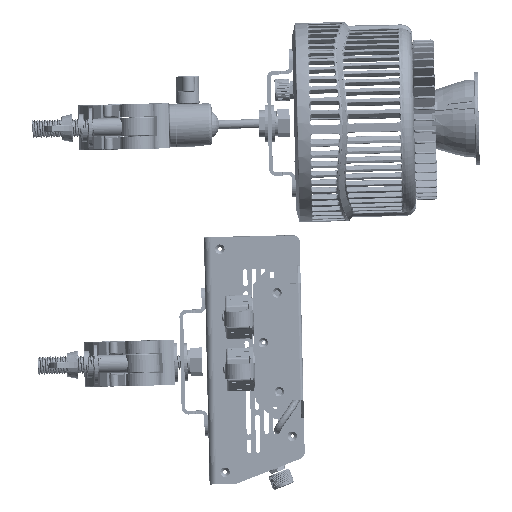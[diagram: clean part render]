
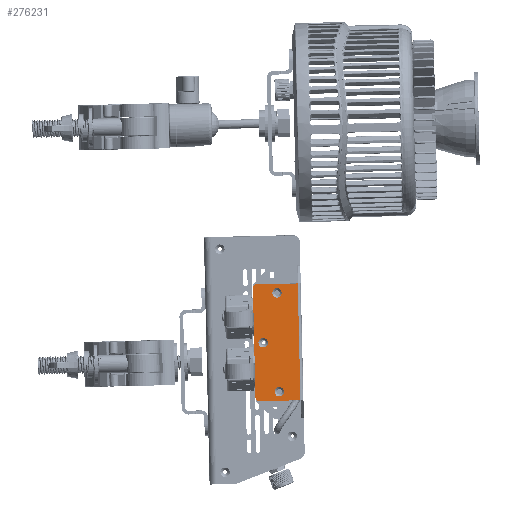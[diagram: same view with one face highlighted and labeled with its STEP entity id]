
A CAD part, left-side view. The second image highlights one B-rep face of the part: STEP entity #276231.
In plain terms, the highlighted planar face has unit normal (-1, 0, -0.003) as drawn and (1, 0, 0) by its records, which use the part's own axes.
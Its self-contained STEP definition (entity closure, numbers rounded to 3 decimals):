
#2128 = CARTESIAN_POINT ( 'NONE',  ( 19., 28.5, -37. ) ) ;
#9729 = CARTESIAN_POINT ( 'NONE',  ( 19., 14.5, 36.15 ) ) ;
#10207 = VERTEX_POINT ( 'NONE', #227552 ) ;
#10753 = ORIENTED_EDGE ( 'NONE', *, *, #183027, .F. ) ;
#12952 = CIRCLE ( 'NONE', #265274, 3.15 ) ;
#14060 = DIRECTION ( 'NONE',  ( 1., 0., 0. ) ) ;
#17226 = EDGE_CURVE ( 'NONE', #119949, #23651, #245859, .T. ) ;
#21820 = VERTEX_POINT ( 'NONE', #242790 ) ;
#23651 = VERTEX_POINT ( 'NONE', #9729 ) ;
#23948 = DIRECTION ( 'NONE',  ( 0., 0., -1. ) ) ;
#28072 = VERTEX_POINT ( 'NONE', #149148 ) ;
#28749 = DIRECTION ( 'NONE',  ( 0., 0., -1. ) ) ;
#32831 = DIRECTION ( 'NONE',  ( 0., 0., -1. ) ) ;
#33234 = EDGE_LOOP ( 'NONE', ( #298638, #272459, #10753, #55738, #103871, #107113 ) ) ;
#37690 = AXIS2_PLACEMENT_3D ( 'NONE', #106160, #180463, #28749 ) ;
#45220 = FACE_BOUND ( 'NONE', #178678, .T. ) ;
#45818 = CIRCLE ( 'NONE', #141774, 3.15 ) ;
#47546 = EDGE_CURVE ( 'NONE', #215955, #21820, #214192, .T. ) ;
#51374 = DIRECTION ( 'NONE',  ( 0., 0., -1. ) ) ;
#55738 = ORIENTED_EDGE ( 'NONE', *, *, #119489, .T. ) ;
#65951 = CIRCLE ( 'NONE', #106349, 2. ) ;
#67318 = VERTEX_POINT ( 'NONE', #167576 ) ;
#75102 = AXIS2_PLACEMENT_3D ( 'NONE', #268004, #288677, #217375 ) ;
#80248 = CARTESIAN_POINT ( 'NONE',  ( 19., 0.5, 39. ) ) ;
#83283 = CIRCLE ( 'NONE', #37690, 3.15 ) ;
#84695 = VERTEX_POINT ( 'NONE', #99338 ) ;
#89166 = AXIS2_PLACEMENT_3D ( 'NONE', #276317, #127660, #108633 ) ;
#89513 = CARTESIAN_POINT ( 'NONE',  ( 19., 14.5, 29.85 ) ) ;
#94066 = DIRECTION ( 'NONE',  ( 0., 1., 0. ) ) ;
#94248 = PLANE ( 'NONE',  #205058 ) ;
#94333 = AXIS2_PLACEMENT_3D ( 'NONE', #257518, #14060, #206910 ) ;
#99338 = CARTESIAN_POINT ( 'NONE',  ( 19., 24.5, -3.15 ) ) ;
#100459 = DIRECTION ( 'NONE',  ( 0., 1., 0. ) ) ;
#102473 = VERTEX_POINT ( 'NONE', #140189 ) ;
#103871 = ORIENTED_EDGE ( 'NONE', *, *, #47546, .F. ) ;
#104160 = CARTESIAN_POINT ( 'NONE',  ( 19., 28.5, -39. ) ) ;
#105094 = VECTOR ( 'NONE', #32831, 1000. ) ;
#106160 = CARTESIAN_POINT ( 'NONE',  ( 19., 14.5, -33. ) ) ;
#106349 = AXIS2_PLACEMENT_3D ( 'NONE', #2128, #290011, #244045 ) ;
#107113 = ORIENTED_EDGE ( 'NONE', *, *, #143960, .T. ) ;
#107488 = ORIENTED_EDGE ( 'NONE', *, *, #113171, .F. ) ;
#108633 = DIRECTION ( 'NONE',  ( 0., 0., -1. ) ) ;
#108652 = ORIENTED_EDGE ( 'NONE', *, *, #205664, .F. ) ;
#109516 = AXIS2_PLACEMENT_3D ( 'NONE', #268082, #245866, #51374 ) ;
#113171 = EDGE_CURVE ( 'NONE', #84695, #10207, #12952, .T. ) ;
#113727 = CARTESIAN_POINT ( 'NONE',  ( 19., 30.5, -37. ) ) ;
#114404 = CIRCLE ( 'NONE', #89166, 3.15 ) ;
#119489 = EDGE_CURVE ( 'NONE', #67318, #21820, #216396, .T. ) ;
#119949 = VERTEX_POINT ( 'NONE', #89513 ) ;
#120802 = VERTEX_POINT ( 'NONE', #104160 ) ;
#125027 = CARTESIAN_POINT ( 'NONE',  ( 19., 30.5, 39. ) ) ;
#127660 = DIRECTION ( 'NONE',  ( 1., 0., 0. ) ) ;
#138988 = DIRECTION ( 'NONE',  ( 1., 0., 0. ) ) ;
#140189 = CARTESIAN_POINT ( 'NONE',  ( 19., 14.5, -36.15 ) ) ;
#141710 = FACE_OUTER_BOUND ( 'NONE', #33234, .T. ) ;
#141774 = AXIS2_PLACEMENT_3D ( 'NONE', #213231, #138988, #207014 ) ;
#143960 = EDGE_CURVE ( 'NONE', #215955, #245178, #201973, .T. ) ;
#149148 = CARTESIAN_POINT ( 'NONE',  ( 19., 14.5, -29.85 ) ) ;
#154850 = CIRCLE ( 'NONE', #94333, 3.15 ) ;
#158188 = EDGE_CURVE ( 'NONE', #28072, #102473, #154850, .T. ) ;
#165396 = FACE_BOUND ( 'NONE', #250887, .T. ) ;
#167576 = CARTESIAN_POINT ( 'NONE',  ( 19., 30.5, 37. ) ) ;
#169626 = DIRECTION ( 'NONE',  ( 1., 0., 0. ) ) ;
#169741 = VERTEX_POINT ( 'NONE', #113727 ) ;
#178678 = EDGE_LOOP ( 'NONE', ( #189623, #211778 ) ) ;
#180463 = DIRECTION ( 'NONE',  ( 1., 0., 0. ) ) ;
#183027 = EDGE_CURVE ( 'NONE', #67318, #169741, #223045, .T. ) ;
#183092 = VECTOR ( 'NONE', #23948, 1000. ) ;
#184470 = CARTESIAN_POINT ( 'NONE',  ( 19., 30.5, -39. ) ) ;
#189623 = ORIENTED_EDGE ( 'NONE', *, *, #265797, .F. ) ;
#190681 = CARTESIAN_POINT ( 'NONE',  ( 19., 30.5, 39. ) ) ;
#196890 = DIRECTION ( 'NONE',  ( 0., -1., 0. ) ) ;
#201973 = LINE ( 'NONE', #80248, #105094 ) ;
#203272 = ORIENTED_EDGE ( 'NONE', *, *, #17226, .F. ) ;
#205058 = AXIS2_PLACEMENT_3D ( 'NONE', #190681, #290371, #196890 ) ;
#205664 = EDGE_CURVE ( 'NONE', #10207, #84695, #45818, .T. ) ;
#206910 = DIRECTION ( 'NONE',  ( 0., 0., -1. ) ) ;
#207014 = DIRECTION ( 'NONE',  ( 0., 0., -1. ) ) ;
#211778 = ORIENTED_EDGE ( 'NONE', *, *, #158188, .F. ) ;
#213231 = CARTESIAN_POINT ( 'NONE',  ( 19., 24.5, 0. ) ) ;
#214192 = LINE ( 'NONE', #310803, #283034 ) ;
#215716 = EDGE_CURVE ( 'NONE', #120802, #169741, #65951, .T. ) ;
#215955 = VERTEX_POINT ( 'NONE', #280254 ) ;
#216396 = CIRCLE ( 'NONE', #75102, 2. ) ;
#217054 = CARTESIAN_POINT ( 'NONE',  ( 19., 24.5, 0. ) ) ;
#217375 = DIRECTION ( 'NONE',  ( 0., -1., 0. ) ) ;
#223045 = LINE ( 'NONE', #125027, #183092 ) ;
#227552 = CARTESIAN_POINT ( 'NONE',  ( 19., 24.5, 3.15 ) ) ;
#233107 = VECTOR ( 'NONE', #100459, 1000. ) ;
#239715 = LINE ( 'NONE', #184470, #233107 ) ;
#242790 = CARTESIAN_POINT ( 'NONE',  ( 19., 28.5, 39. ) ) ;
#244045 = DIRECTION ( 'NONE',  ( 0., -1., 0. ) ) ;
#245178 = VERTEX_POINT ( 'NONE', #305677 ) ;
#245859 = CIRCLE ( 'NONE', #109516, 3.15 ) ;
#245866 = DIRECTION ( 'NONE',  ( 1., 0., 0. ) ) ;
#250887 = EDGE_LOOP ( 'NONE', ( #203272, #296955 ) ) ;
#257518 = CARTESIAN_POINT ( 'NONE',  ( 19., 14.5, -33. ) ) ;
#261873 = FACE_BOUND ( 'NONE', #285565, .T. ) ;
#265274 = AXIS2_PLACEMENT_3D ( 'NONE', #217054, #169626, #312083 ) ;
#265797 = EDGE_CURVE ( 'NONE', #102473, #28072, #83283, .T. ) ;
#267703 = EDGE_CURVE ( 'NONE', #23651, #119949, #114404, .T. ) ;
#268004 = CARTESIAN_POINT ( 'NONE',  ( 19., 28.5, 37. ) ) ;
#268082 = CARTESIAN_POINT ( 'NONE',  ( 19., 14.5, 33. ) ) ;
#272459 = ORIENTED_EDGE ( 'NONE', *, *, #215716, .T. ) ;
#276231 = ADVANCED_FACE ( 'NONE', ( #165396, #261873, #45220, #141710 ), #94248, .F. ) ;
#276317 = CARTESIAN_POINT ( 'NONE',  ( 19., 14.5, 33. ) ) ;
#280254 = CARTESIAN_POINT ( 'NONE',  ( 19., 0.5, 39. ) ) ;
#283034 = VECTOR ( 'NONE', #94066, 1000. ) ;
#285565 = EDGE_LOOP ( 'NONE', ( #107488, #108652 ) ) ;
#288677 = DIRECTION ( 'NONE',  ( 1., 0., 0. ) ) ;
#290011 = DIRECTION ( 'NONE',  ( 1., 0., 0. ) ) ;
#290371 = DIRECTION ( 'NONE',  ( -1., 0., 0. ) ) ;
#296955 = ORIENTED_EDGE ( 'NONE', *, *, #267703, .F. ) ;
#298638 = ORIENTED_EDGE ( 'NONE', *, *, #305686, .T. ) ;
#305677 = CARTESIAN_POINT ( 'NONE',  ( 19., 0.5, -39. ) ) ;
#305686 = EDGE_CURVE ( 'NONE', #245178, #120802, #239715, .T. ) ;
#310803 = CARTESIAN_POINT ( 'NONE',  ( 19., 30.5, 39. ) ) ;
#312083 = DIRECTION ( 'NONE',  ( 0., 0., -1. ) ) ;
